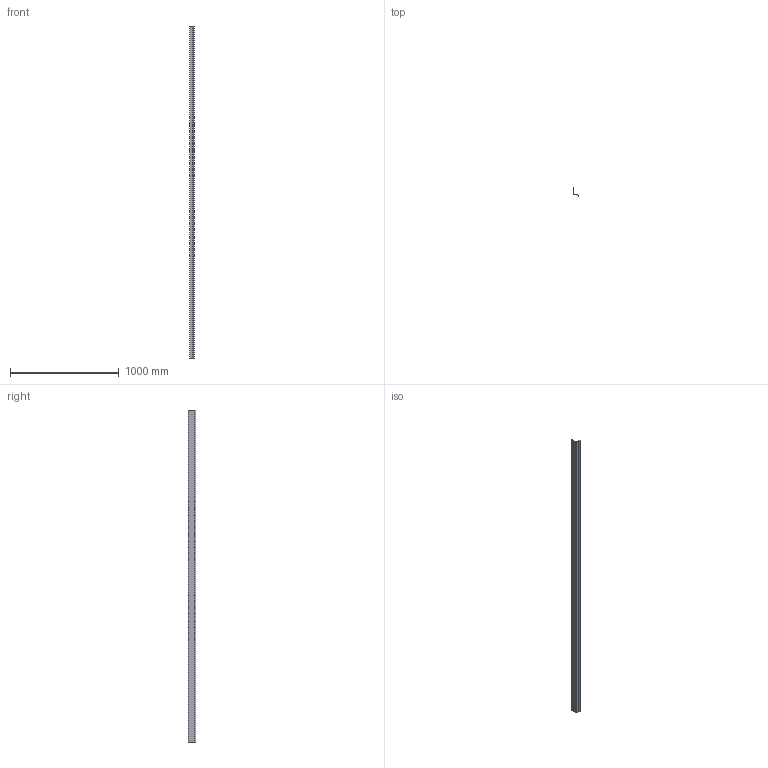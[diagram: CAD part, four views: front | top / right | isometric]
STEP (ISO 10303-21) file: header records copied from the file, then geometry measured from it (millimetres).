
FILE_DESCRIPTION(/* description */ (''),/* implementation_level */ '2;1');
FILE_NAME(/* name */ 'M51I.stp',/* time_stamp */ '2025-02-27T16:24:32-05:00',/* author */ ('samuel.gauthier'),/* organization */ (''),/* preprocessor_version */ 'ST-DEVELOPER v20',/* originating_system */ 'Autodesk Inventor 2025',/* authorisation */ '');
FILE_SCHEMA (('AUTOMOTIVE_DESIGN { 1 0 10303 214 3 1 1 }'));
Length unit declared in the file: inch
Products named in the file (1): M51I
Bounding box: 41.3 x 72.24 x 3048 mm (x, y, z)
Volume: 183239.1 mm3; surface area: 724630.8 mm2
Topology: 1 solids, 1 shells, 18 faces, 48 edges, 32 vertices
Faces by surface type: plane 12, cylinder 6
Entity records: 609 total; most frequent: CARTESIAN_POINT 99, DIRECTION 98, ORIENTED_EDGE 96, EDGE_CURVE 48, LINE 36, VECTOR 36, VERTEX_POINT 32, AXIS2_PLACEMENT_3D 31
